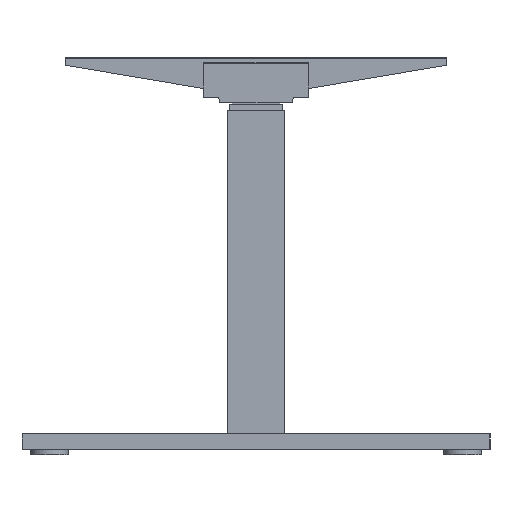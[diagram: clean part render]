
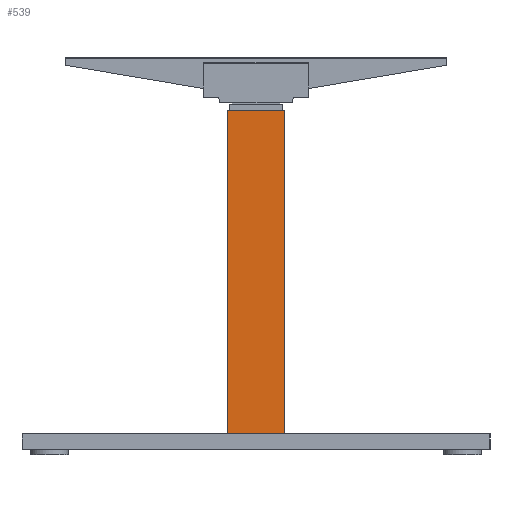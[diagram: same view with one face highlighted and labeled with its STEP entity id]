
A CAD part, left-side view. The second image highlights one B-rep face of the part: STEP entity #539.
In plain terms, the highlighted planar face has unit normal (-1, 0, 0).
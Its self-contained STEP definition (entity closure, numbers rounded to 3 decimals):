
#539 = ADVANCED_FACE( '', ( #1125 ), #1126, .F. );
#1125 = FACE_OUTER_BOUND( '', #1885, .T. );
#1126 = PLANE( '', #1886 );
#1885 = EDGE_LOOP( '', ( #2984, #2985, #2986, #2987 ) );
#1886 = AXIS2_PLACEMENT_3D( '', #2988, #2989, #2990 );
#2984 = ORIENTED_EDGE( '', *, *, #4378, .F. );
#2985 = ORIENTED_EDGE( '', *, *, #4379, .F. );
#2986 = ORIENTED_EDGE( '', *, *, #4313, .F. );
#2987 = ORIENTED_EDGE( '', *, *, #4129, .F. );
#2988 = CARTESIAN_POINT( '', ( -30., 0., 0. ) );
#2989 = DIRECTION( '', ( 1., 0., 0. ) );
#2990 = DIRECTION( '', ( 0., 0., -1. ) );
#4129 = EDGE_CURVE( '', #4834, #4835, #4836, .T. );
#4313 = EDGE_CURVE( '', #4835, #5143, #5144, .T. );
#4378 = EDGE_CURVE( '', #5241, #4834, #5242, .T. );
#4379 = EDGE_CURVE( '', #5143, #5241, #5243, .T. );
#4834 = VERTEX_POINT( '', #5853 );
#4835 = VERTEX_POINT( '', #5854 );
#4836 = LINE( '', #5855, #5856 );
#5143 = VERTEX_POINT( '', #6264 );
#5144 = LINE( '', #6265, #6266 );
#5241 = VERTEX_POINT( '', #6406 );
#5242 = LINE( '', #6407, #6408 );
#5243 = LINE( '', #6409, #6410 );
#5853 = CARTESIAN_POINT( '', ( -30., -45., 0. ) );
#5854 = CARTESIAN_POINT( '', ( -30., 45., 0. ) );
#5855 = CARTESIAN_POINT( '', ( -30., -45., 0. ) );
#5856 = VECTOR( '', #7004, 1000. );
#6264 = CARTESIAN_POINT( '', ( -30., 45., 508. ) );
#6265 = CARTESIAN_POINT( '', ( -30., 45., 0. ) );
#6266 = VECTOR( '', #7223, 1000. );
#6406 = CARTESIAN_POINT( '', ( -30., -45., 508. ) );
#6407 = CARTESIAN_POINT( '', ( -30., -45., 508. ) );
#6408 = VECTOR( '', #7288, 1000. );
#6409 = CARTESIAN_POINT( '', ( -30., 45., 508. ) );
#6410 = VECTOR( '', #7289, 1000. );
#7004 = DIRECTION( '', ( 0., 1., 0. ) );
#7223 = DIRECTION( '', ( 0., 0., 1. ) );
#7288 = DIRECTION( '', ( 0., 0., -1. ) );
#7289 = DIRECTION( '', ( 0., -1., 0. ) );
